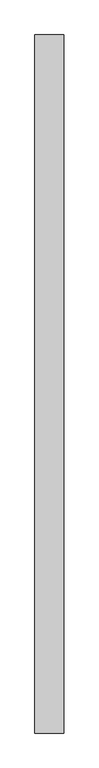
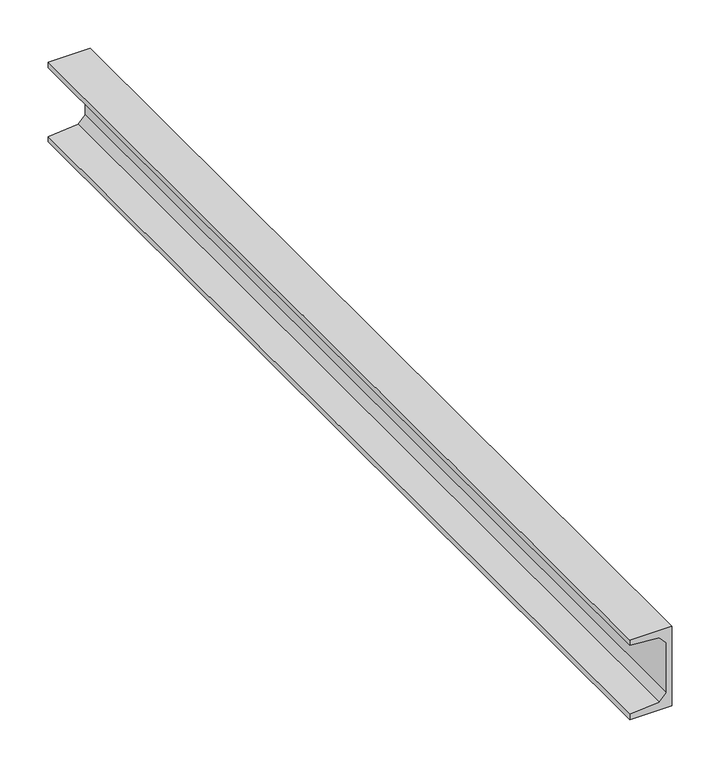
"""IFC4 building model written with IfcOpenShell, lengths in millimetres: beam geometry, Murailli?re 205514 : Murailli?re 205514."""

import ifcopenshell
import ifcopenshell.guid

model = None  # the IFC model being written
_history = None  # IfcOwnerHistory: only IFC2X3 demands one
_inside = {}  # id of a spatial element -> (the spatial element, [elements in it])
_under = {}  # id of a project, library or spatial element -> (it, [spatial elements below it])
_declared = {}  # id of a project -> (the project, [libraries it declares])
_typed = {}  # id of a type object -> (the type object, [elements of that type])
_made_of = {}  # id of a material, layer set ... -> (it, [elements and type objects made of it])


def new_model(schema):
    """Start an empty IFC model of exactly this schema.

    Asked for "IFC4X3", IfcOpenShell would pick the latest addendum, in which some entities
    have other attributes; the version numbers below select the first issue.
    IFC2X3 requires an IfcOwnerHistory on every rooted entity: one is made here for all.
    """
    global model, _history
    if schema == "IFC4X3":
        model = ifcopenshell.file(schema_version=(4, 3, 0, 0))
    else:
        model = ifcopenshell.file(schema=schema)
    _inside.clear()
    _under.clear()
    _declared.clear()
    _typed.clear()
    _made_of.clear()
    _history = None
    if model.schema == "IFC2X3":
        org = make("IfcOrganization", Name="unknown")
        user = make(
            "IfcPersonAndOrganization",
            ThePerson=make("IfcPerson", FamilyName="unknown"),
            TheOrganization=org,
        )
        app = make(
            "IfcApplication",
            ApplicationDeveloper=org,
            Version="unknown",
            ApplicationFullName="unknown",
            ApplicationIdentifier="unknown",
        )
        _history = make(
            "IfcOwnerHistory",
            OwningUser=user,
            OwningApplication=app,
            ChangeAction="ADDED",
            CreationDate=0,
        )
    return model


def make(cls, **values):
    """One entity of the class cls with the attributes given. An attribute that is None is left unset."""
    return model.create_entity(
        cls, **{name: value for name, value in values.items() if value is not None}
    )


def rooted(cls, **values):
    """An entity with a GlobalId (a new one), such as an element, a storey or a relation."""
    return make(cls, GlobalId=ifcopenshell.guid.new(), OwnerHistory=_history, **values)


def si_unit(unit_type, name, prefix=None):
    """IfcSIUnit, for example si_unit("LENGTHUNIT", "METRE", prefix="MILLI")."""
    return make("IfcSIUnit", UnitType=unit_type, Prefix=prefix, Name=name)


def assignment(units):
    """IfcUnitAssignment: the units of a project."""
    return None if units is None else make("IfcUnitAssignment", Units=units)


def point(xyz):
    """IfcCartesianPoint."""
    return None if xyz is None else make("IfcCartesianPoint", Coordinates=xyz)


def direction(xyz):
    """IfcDirection."""
    return None if xyz is None else make("IfcDirection", DirectionRatios=xyz)


def frame(location, z_axis=None, x_axis=None):
    """IfcAxis2Placement3D, a coordinate frame: its origin and axes. An axis left out is left unset."""
    return make(
        "IfcAxis2Placement3D",
        Location=point(location),
        Axis=direction(z_axis),
        RefDirection=direction(x_axis),
    )


def origin():
    """The frame at (0, 0, 0) with its axes left unset."""
    return frame((0.0, 0.0, 0.0))


def place(relative_to, where):
    """IfcLocalPlacement: puts the frame where relative to a parent placement (None: the world)."""
    return make(
        "IfcLocalPlacement", PlacementRelTo=relative_to, RelativePlacement=where
    )


def context(
    kind, dimensions, precision=None, world=None, true_north=None, identifier=None
):
    """IfcGeometricRepresentationContext, for example the 3D "Model" context."""
    return make(
        "IfcGeometricRepresentationContext",
        ContextIdentifier=identifier,
        ContextType=kind,
        CoordinateSpaceDimension=dimensions,
        Precision=precision,
        WorldCoordinateSystem=world,
        TrueNorth=true_north,
    )


def project(units=None, contexts=None):
    """IfcProject with its units and contexts."""
    return rooted(
        "IfcProject",
        Name="project",
        RepresentationContexts=contexts,
        UnitsInContext=assignment(units),
    )


def spatial(cls, under=None, at=None, **own):
    """A site, building, storey or space (cls), placed at a placement, below another one or the project."""
    s = rooted(cls, ObjectPlacement=at, **own)
    if under is not None:
        _under.setdefault(under.id(), (under, []))[1].append(s)
    return s


def polyline(points):
    """IfcPolyline through the points."""
    return make("IfcPolyline", Points=[point(p) for p in points])


def outline(outer, holes=None, kind="AREA"):
    """IfcArbitraryClosedProfileDef: a profile drawn as a closed curve; with holes, ...WithVoids."""
    if holes is None:
        return make("IfcArbitraryClosedProfileDef", ProfileType=kind, OuterCurve=outer)
    return make(
        "IfcArbitraryProfileDefWithVoids",
        ProfileType=kind,
        OuterCurve=outer,
        InnerCurves=holes,
    )


def extrude(swept, where, along, depth):
    """IfcExtrudedAreaSolid: the profile swept, set in the frame where, extruded along a direction by depth."""
    return make(
        "IfcExtrudedAreaSolid",
        SweptArea=swept,
        Position=where,
        ExtrudedDirection=direction(along),
        Depth=depth,
    )


def shape(context_of_items, identifier, shape_type, items):
    """IfcShapeRepresentation: the items that make up one representation, for example the "Body"."""
    return make(
        "IfcShapeRepresentation",
        ContextOfItems=context_of_items,
        RepresentationIdentifier=identifier,
        RepresentationType=shape_type,
        Items=items,
    )


def source(mapping_origin, context_of_items, identifier, shape_type, items):
    """IfcRepresentationMap: a shape defined once, which mapped items show again and again."""
    return make(
        "IfcRepresentationMap",
        MappingOrigin=mapping_origin,
        MappedRepresentation=shape(context_of_items, identifier, shape_type, items),
    )


def transform(
    local_origin,
    x_axis=None,
    y_axis=None,
    z_axis=None,
    scale=None,
    scale2=None,
    scale3=None,
    uniform=True,
):
    """IfcCartesianTransformationOperator3D, or its non-uniform kind. x_axis, y_axis, z_axis: its Axis1, 2, 3."""
    if uniform:
        return make(
            "IfcCartesianTransformationOperator3D",
            Axis1=direction(x_axis),
            Axis2=direction(y_axis),
            LocalOrigin=point(local_origin),
            Scale=scale,
            Axis3=direction(z_axis),
        )
    return make(
        "IfcCartesianTransformationOperator3DnonUniform",
        Axis1=direction(x_axis),
        Axis2=direction(y_axis),
        LocalOrigin=point(local_origin),
        Scale=scale,
        Axis3=direction(z_axis),
        Scale2=scale2,
        Scale3=scale3,
    )


def mapped(mapping_source, mapping_target):
    """IfcMappedItem: shows the shape of a source again, moved by a transform."""
    return make(
        "IfcMappedItem", MappingSource=mapping_source, MappingTarget=mapping_target
    )


def made_of(thing, what):
    """Note that an element or type object is made of a material, layer set ...; save() writes the relation."""
    if what is not None:
        _made_of.setdefault(what.id(), (what, []))[1].append(thing)
    return thing


def element(
    cls,
    number,
    at=None,
    inside=None,
    cuts=None,
    type_object=None,
    material=None,
    context=None,
    identifier="Body",
    shape_type=None,
    held_by="IfcProductDefinitionShape",
    body=None,
    shapes=None,
    **own,
):
    """One element of the class cls, such as IfcWall. Its Tag is "e" and its number.

    at: its placement. inside: the storey or other place that contains it. cuts: it is an
    opening in that element (IfcRelVoidsElement). A single representation is given by context,
    identifier, shape_type and body (its items); several are given by shapes. held_by: the class
    of the entity that holds the representations. save() writes the other relations.
    """
    e = rooted(cls, Tag="e%d" % number, ObjectPlacement=at, **own)
    if body is not None:
        shapes = [shape(context, identifier, shape_type, body)]
    if shapes is not None:
        e.Representation = make(held_by, Representations=shapes)
    if inside is not None:
        _inside.setdefault(inside.id(), (inside, []))[1].append(e)
    if cuts is not None:
        rooted(
            "IfcRelVoidsElement", RelatingBuildingElement=cuts, RelatedOpeningElement=e
        )
    if type_object is not None:
        _typed.setdefault(type_object.id(), (type_object, []))[1].append(e)
    return made_of(e, material)


def aggregate(whole, parts):
    """IfcRelAggregates: a whole, such as a stair, and the parts it consists of."""
    return rooted("IfcRelAggregates", RelatingObject=whole, RelatedObjects=parts)


def save(model, path):
    """Write the relations noted so far, then the file.

    IfcRelAggregates (storeys below a building ...), IfcRelContainedInSpatialStructure (elements
    in a storey), IfcRelDefinesByType, IfcRelAssociatesMaterial and IfcRelDeclares: one each for
    every whole, place, type object, material and project.
    """
    for whole, parts in _under.values():
        aggregate(whole, parts)
    for where, things in _inside.values():
        rooted(
            "IfcRelContainedInSpatialStructure",
            RelatedElements=things,
            RelatingStructure=where,
        )
    for kind, things in _typed.values():
        rooted("IfcRelDefinesByType", RelatedObjects=things, RelatingType=kind)
    for what, things in _made_of.values():
        rooted("IfcRelAssociatesMaterial", RelatedObjects=things, RelatingMaterial=what)
    for by, libraries in _declared.values():
        rooted("IfcRelDeclares", RelatingContext=by, RelatedDefinitions=libraries)
    model.write(path)


def beam_5e7c5863(model_context):
    return source(origin(), model_context, "Body", "SweptSolid", [
        extrude(outline(polyline([(7495.925, 15339.9999999), (7489.425, 15339.9999999), (7486.585, 15375.4999999), (7477.405, 15383.9999999), (7414.445, 15383.9999999), (7405.265, 15375.4999999), (7402.425, 15339.9999999), (7395.925, 15339.9999999), (7395.925, 15389.9999999), (7495.925, 15389.9999999), (7495.925, 15339.9999999)])), frame((0.0, -39755.0, 0.0), z_axis=(0.0, 1.0, 0.0), x_axis=(0.0, 0.0, 1.0)), (0.0, 0.0, 1.0), 1200.0),
    ])


if __name__ == "__main__":
    model = new_model("IFC4")
    model_context = context("Model", 3, world=origin())
    ifc_project = project(units=[si_unit("LENGTHUNIT", "METRE", prefix="MILLI")], contexts=[model_context])
    site = spatial("IfcSite", under=ifc_project)
    building = spatial("IfcBuilding", under=site)
    placement = place(None, origin())
    beam_shape = beam_5e7c5863(model_context)
    element("IfcBeam", 1, ObjectType="Murailli?re 205514 : Murailli?re 205514", at=placement, inside=building, context=model_context, shape_type="MappedRepresentation", body=[
        mapped(beam_shape, transform((0.0, 0.0, 0.0), x_axis=(1.0, 0.0, 0.0), y_axis=(0.0, 1.0, 0.0), z_axis=(0.0, 0.0, 1.0))),
    ])
    save(model, "model.ifc")
